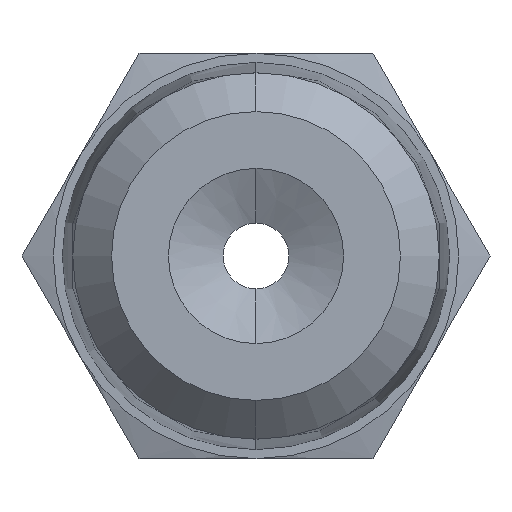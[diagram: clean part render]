
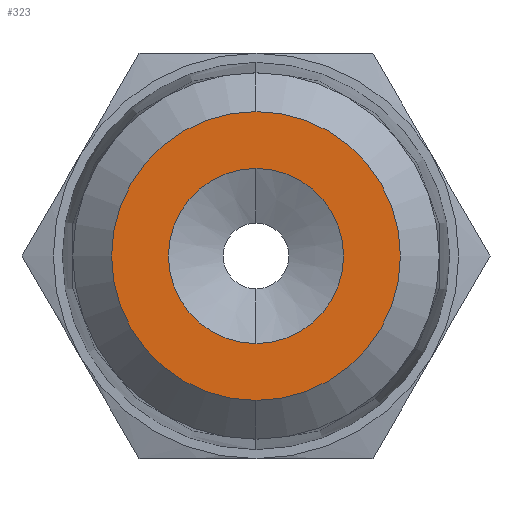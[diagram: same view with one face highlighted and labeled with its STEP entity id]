
A CAD part, left-side view. The second image highlights one B-rep face of the part: STEP entity #323.
In plain terms, the highlighted planar face has unit normal (-1, 0, 0).
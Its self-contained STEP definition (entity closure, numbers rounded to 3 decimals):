
#118 = EDGE_CURVE ( 'NONE', #119, #120, #857, .T. ) ;
#119 = VERTEX_POINT ( 'NONE', #848 ) ;
#120 = VERTEX_POINT ( 'NONE', #847 ) ;
#141 = VERTEX_POINT ( 'NONE', #731 ) ;
#143 = EDGE_CURVE ( 'NONE', #141, #144, #730, .T. ) ;
#144 = VERTEX_POINT ( 'NONE', #725 ) ;
#231 = ORIENTED_EDGE ( 'NONE', *, *, #232, .T. ) ;
#232 = EDGE_CURVE ( 'NONE', #120, #119, #940, .T. ) ;
#233 = ORIENTED_EDGE ( 'NONE', *, *, #118, .T. ) ;
#234 = EDGE_LOOP ( 'NONE', ( #235, #237 ) ) ;
#235 = ORIENTED_EDGE ( 'NONE', *, *, #236, .F. ) ;
#236 = EDGE_CURVE ( 'NONE', #144, #141, #930, .T. ) ;
#237 = ORIENTED_EDGE ( 'NONE', *, *, #143, .F. ) ;
#323 = ADVANCED_FACE ( 'NONE', ( #996, #991 ), #990, .T. ) ;
#324 = EDGE_LOOP ( 'NONE', ( #231, #233 ) ) ;
#725 = CARTESIAN_POINT ( 'NONE',  ( -10., 0., 2.4 ) ) ;
#726 = DIRECTION ( 'NONE',  ( 0., 0., 1. ) ) ;
#727 = DIRECTION ( 'NONE',  ( -1., 0., 0. ) ) ;
#728 = CARTESIAN_POINT ( 'NONE',  ( -10., 0., 0. ) ) ;
#729 = AXIS2_PLACEMENT_3D ( 'NONE', #728, #727, #726 ) ;
#730 = CIRCLE ( 'NONE', #729, 2.4 ) ;
#731 = CARTESIAN_POINT ( 'NONE',  ( -10., 0., -2.4 ) ) ;
#847 = CARTESIAN_POINT ( 'NONE',  ( -10., 0., -3.959 ) ) ;
#848 = CARTESIAN_POINT ( 'NONE',  ( -10., 0., 3.959 ) ) ;
#849 = DIRECTION ( 'NONE',  ( 0., 0., 1. ) ) ;
#850 = DIRECTION ( 'NONE',  ( -1., 0., 0. ) ) ;
#851 = CARTESIAN_POINT ( 'NONE',  ( -10., 0., 0. ) ) ;
#852 = AXIS2_PLACEMENT_3D ( 'NONE', #851, #850, #849 ) ;
#857 = CIRCLE ( 'NONE', #852, 3.959 ) ;
#926 = DIRECTION ( 'NONE',  ( 0., 0., 1. ) ) ;
#927 = DIRECTION ( 'NONE',  ( -1., 0., 0. ) ) ;
#928 = CARTESIAN_POINT ( 'NONE',  ( -10., 0., 0. ) ) ;
#929 = AXIS2_PLACEMENT_3D ( 'NONE', #928, #927, #926 ) ;
#930 = CIRCLE ( 'NONE', #929, 2.4 ) ;
#931 = DIRECTION ( 'NONE',  ( 0., 0., 1. ) ) ;
#932 = DIRECTION ( 'NONE',  ( -1., 0., 0. ) ) ;
#933 = CARTESIAN_POINT ( 'NONE',  ( -10., 0., 0. ) ) ;
#934 = AXIS2_PLACEMENT_3D ( 'NONE', #933, #932, #931 ) ;
#940 = CIRCLE ( 'NONE', #934, 3.959 ) ;
#985 = DIRECTION ( 'NONE',  ( 0., 0., 1. ) ) ;
#986 = DIRECTION ( 'NONE',  ( -1., 0., 0. ) ) ;
#987 = AXIS2_PLACEMENT_3D ( 'NONE', #989, #986, #985 ) ;
#989 = CARTESIAN_POINT ( 'NONE',  ( -10., 0., 0. ) ) ;
#990 = PLANE ( 'NONE',  #987 ) ;
#991 = FACE_BOUND ( 'NONE', #234, .T. ) ;
#996 = FACE_OUTER_BOUND ( 'NONE', #324, .T. ) ;
